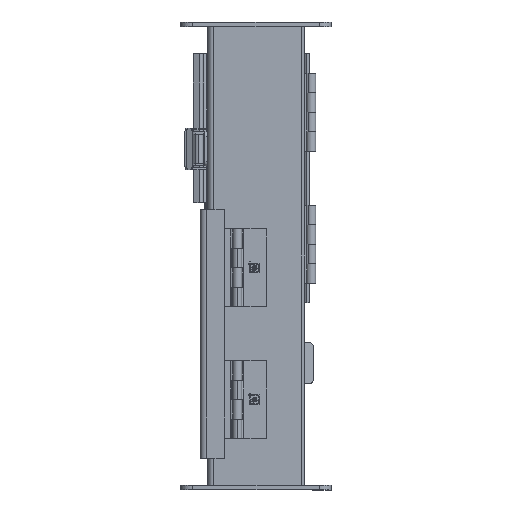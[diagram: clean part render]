
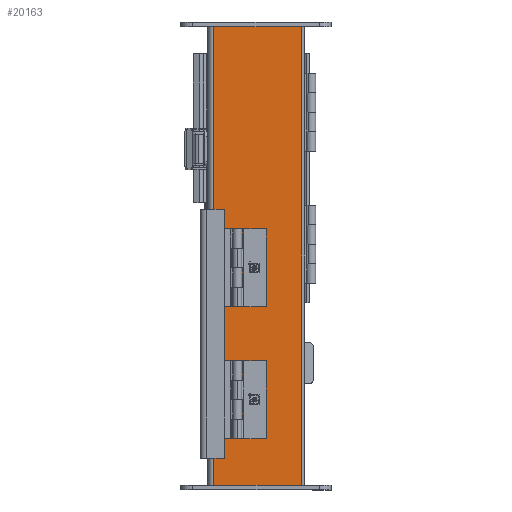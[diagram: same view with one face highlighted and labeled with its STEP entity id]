
A CAD part, front view. The second image highlights one B-rep face of the part: STEP entity #20163.
In plain terms, the highlighted planar face has unit normal (0, -1, 0).
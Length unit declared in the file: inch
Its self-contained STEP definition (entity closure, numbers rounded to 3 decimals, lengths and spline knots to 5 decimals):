
#4072 = AXIS2_PLACEMENT_3D ( 'NONE', #13502, #13496, #13495 ) ;
#4234 = CARTESIAN_POINT ( 'NONE',  ( 0., 0., 5.875 ) ) ;
#4237 = CARTESIAN_POINT ( 'NONE',  ( -2.268, 0., -5.875 ) ) ;
#4259 = CARTESIAN_POINT ( 'NONE',  ( 0., 0., -5.875 ) ) ;
#4266 = CARTESIAN_POINT ( 'NONE',  ( -2.268, 0., 5.875 ) ) ;
#10941 = EDGE_CURVE ( 'NONE', #32537, #32512, #35896, .T. ) ;
#10945 = EDGE_CURVE ( 'NONE', #32541, #32512, #35892, .T. ) ;
#11005 = EDGE_CURVE ( 'NONE', #32504, #32537, #35838, .T. ) ;
#11067 = EDGE_CURVE ( 'NONE', #32504, #32541, #35740, .T. ) ;
#13495 = DIRECTION ( 'NONE',  ( 0., 0., 1. ) ) ;
#13496 = DIRECTION ( 'NONE',  ( 0., 1., 0. ) ) ;
#13501 = PLANE ( 'NONE',  #4072 ) ;
#13502 = CARTESIAN_POINT ( 'NONE',  ( -2.42, 0., 5.875 ) ) ;
#14190 = ORIENTED_EDGE ( 'NONE', *, *, #10941, .T. ) ;
#14193 = ORIENTED_EDGE ( 'NONE', *, *, #10945, .F. ) ;
#14194 = ORIENTED_EDGE ( 'NONE', *, *, #11067, .F. ) ;
#14195 = ORIENTED_EDGE ( 'NONE', *, *, #11005, .T. ) ;
#20163 = ADVANCED_FACE ( 'NONE', ( #31496 ), #13501, .F. ) ;
#21852 = DIRECTION ( 'NONE',  ( 0., 0., -1. ) ) ;
#21860 = CARTESIAN_POINT ( 'NONE',  ( 0., 0., 5.875 ) ) ;
#21861 = DIRECTION ( 'NONE',  ( 1., 0., 0. ) ) ;
#21862 = CARTESIAN_POINT ( 'NONE',  ( -2.42, 0., -5.875 ) ) ;
#28352 = DIRECTION ( 'NONE',  ( 1., 0., 0. ) ) ;
#28353 = CARTESIAN_POINT ( 'NONE',  ( -2.42, 0., 5.875 ) ) ;
#28478 = DIRECTION ( 'NONE',  ( 0., 0., -1. ) ) ;
#28483 = CARTESIAN_POINT ( 'NONE',  ( -2.268, 0., 5.875 ) ) ;
#31496 = FACE_OUTER_BOUND ( 'NONE', #31983, .T. ) ;
#31983 = EDGE_LOOP ( 'NONE', ( #14190, #14193, #14194, #14195 ) ) ;
#32504 = VERTEX_POINT ( 'NONE', #4266 ) ;
#32512 = VERTEX_POINT ( 'NONE', #4259 ) ;
#32537 = VERTEX_POINT ( 'NONE', #4237 ) ;
#32541 = VERTEX_POINT ( 'NONE', #4234 ) ;
#35739 = VECTOR ( 'NONE', #28352, 39.37008 ) ;
#35740 = LINE ( 'NONE', #28353, #35739 ) ;
#35832 = VECTOR ( 'NONE', #28478, 39.37008 ) ;
#35838 = LINE ( 'NONE', #28483, #35832 ) ;
#35892 = LINE ( 'NONE', #21860, #35894 ) ;
#35894 = VECTOR ( 'NONE', #21852, 39.37008 ) ;
#35896 = LINE ( 'NONE', #21862, #35949 ) ;
#35949 = VECTOR ( 'NONE', #21861, 39.37008 ) ;
